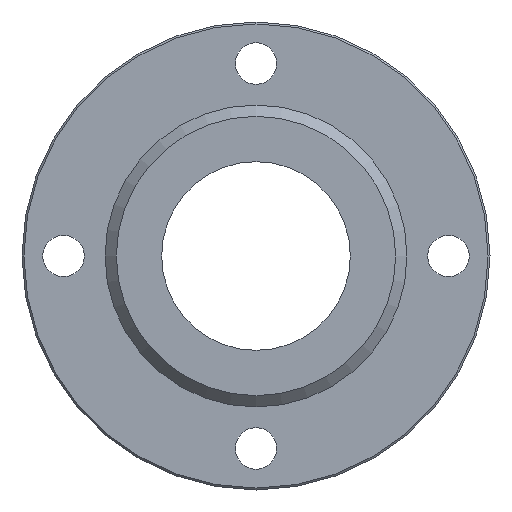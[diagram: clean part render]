
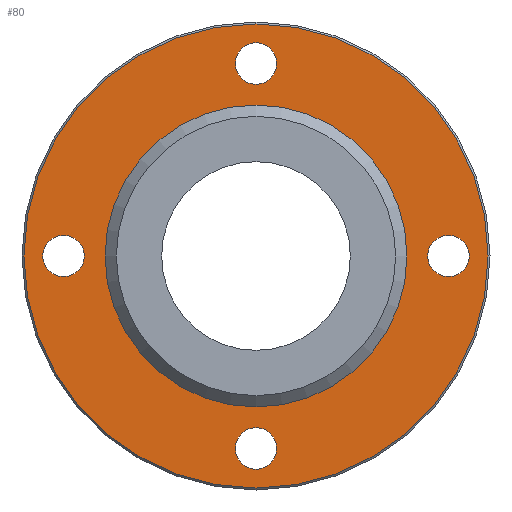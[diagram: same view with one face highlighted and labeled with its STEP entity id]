
A CAD part, left-side view. The second image highlights one B-rep face of the part: STEP entity #80.
In plain terms, the highlighted planar face has unit normal (-1, 0, 0).
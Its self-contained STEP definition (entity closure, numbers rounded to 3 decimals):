
#80=ADVANCED_FACE('',(#115,#116,#117,#118,#119,#120),#121,.F.);
#115=FACE_BOUND('',#195,.T.);
#116=FACE_BOUND('',#196,.T.);
#117=FACE_BOUND('',#197,.T.);
#118=FACE_BOUND('',#198,.T.);
#119=FACE_BOUND('',#199,.T.);
#120=FACE_OUTER_BOUND('',#200,.T.);
#121=PLANE('',#201);
#195=EDGE_LOOP('',(#285));
#196=EDGE_LOOP('',(#286));
#197=EDGE_LOOP('',(#287));
#198=EDGE_LOOP('',(#288));
#199=EDGE_LOOP('',(#289));
#200=EDGE_LOOP('',(#290));
#201=AXIS2_PLACEMENT_3D('',#291,#292,#293);
#285=ORIENTED_EDGE('',*,*,#395,.T.);
#286=ORIENTED_EDGE('',*,*,#396,.T.);
#287=ORIENTED_EDGE('',*,*,#397,.T.);
#288=ORIENTED_EDGE('',*,*,#398,.T.);
#289=ORIENTED_EDGE('',*,*,#399,.T.);
#290=ORIENTED_EDGE('',*,*,#400,.F.);
#291=CARTESIAN_POINT('',(-11.0,20.0,0.0));
#292=DIRECTION('',(1.0,0.0,0.0));
#293=DIRECTION('',(0.0,0.0,-1.0));
#395=EDGE_CURVE('',#430,#430,#431,.T.);
#396=EDGE_CURVE('',#432,#432,#433,.T.);
#397=EDGE_CURVE('',#434,#434,#435,.T.);
#398=EDGE_CURVE('',#436,#436,#437,.T.);
#399=EDGE_CURVE('',#438,#438,#439,.T.);
#400=EDGE_CURVE('',#440,#440,#441,.T.);
#430=VERTEX_POINT('',#486);
#431=CIRCLE('',#487,20.0);
#432=VERTEX_POINT('',#488);
#433=CIRCLE('',#489,2.75);
#434=VERTEX_POINT('',#490);
#435=CIRCLE('',#491,2.75);
#436=VERTEX_POINT('',#492);
#437=CIRCLE('',#493,2.75);
#438=VERTEX_POINT('',#494);
#439=CIRCLE('',#495,2.75);
#440=VERTEX_POINT('',#496);
#441=CIRCLE('',#497,30.746);
#486=CARTESIAN_POINT('',(-11.0,0.,-20.0));
#487=AXIS2_PLACEMENT_3D('',#549,#550,#551);
#488=CARTESIAN_POINT('',(-11.0,25.5,-2.75));
#489=AXIS2_PLACEMENT_3D('',#552,#553,#554);
#490=CARTESIAN_POINT('',(-11.0,0.,-28.25));
#491=AXIS2_PLACEMENT_3D('',#555,#556,#557);
#492=CARTESIAN_POINT('',(-11.0,-25.5,-2.75));
#493=AXIS2_PLACEMENT_3D('',#558,#559,#560);
#494=CARTESIAN_POINT('',(-11.0,0.,22.75));
#495=AXIS2_PLACEMENT_3D('',#561,#562,#563);
#496=CARTESIAN_POINT('',(-11.0,0.,-30.746));
#497=AXIS2_PLACEMENT_3D('',#564,#565,#566);
#549=CARTESIAN_POINT('',(-11.0,0.,0.0));
#550=DIRECTION('',(1.0,0.0,0.0));
#551=DIRECTION('',(0.0,0.0,-1.0));
#552=CARTESIAN_POINT('',(-11.0,25.5,0.0));
#553=DIRECTION('',(1.0,0.0,0.0));
#554=DIRECTION('',(0.0,0.0,-1.0));
#555=CARTESIAN_POINT('',(-11.0,0.,-25.5));
#556=DIRECTION('',(1.0,0.0,0.0));
#557=DIRECTION('',(0.0,0.0,-1.0));
#558=CARTESIAN_POINT('',(-11.0,-25.5,0.0));
#559=DIRECTION('',(1.0,0.0,0.0));
#560=DIRECTION('',(0.0,0.0,-1.0));
#561=CARTESIAN_POINT('',(-11.0,0.,25.5));
#562=DIRECTION('',(1.0,0.0,0.0));
#563=DIRECTION('',(0.0,0.0,-1.0));
#564=CARTESIAN_POINT('',(-11.0,0.,0.0));
#565=DIRECTION('',(1.0,0.0,0.0));
#566=DIRECTION('',(0.0,0.0,-1.0));
